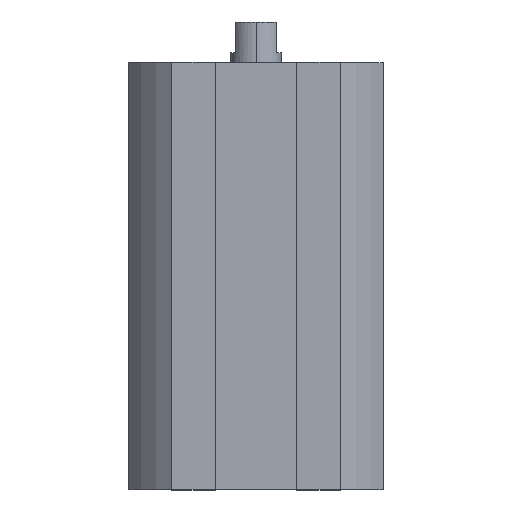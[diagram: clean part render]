
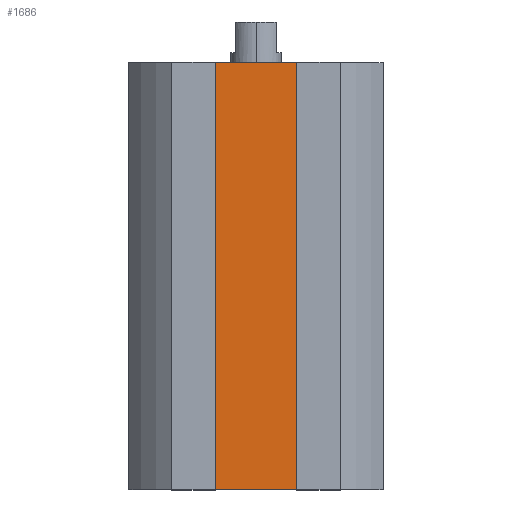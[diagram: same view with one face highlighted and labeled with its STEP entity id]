
A CAD part, top view. The second image highlights one B-rep face of the part: STEP entity #1686.
In plain terms, the highlighted planar face has unit normal (0, 0, 1).
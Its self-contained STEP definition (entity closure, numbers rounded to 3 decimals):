
#136 = CARTESIAN_POINT ( 'NONE',  ( 4., -42., 7.8 ) ) ;
#338 = VECTOR ( 'NONE', #1359, 1000. ) ;
#392 = DIRECTION ( 'NONE',  ( 0., 0., 1. ) ) ;
#420 = VERTEX_POINT ( 'NONE', #1025 ) ;
#497 = CARTESIAN_POINT ( 'NONE',  ( -4., -42., 7.8 ) ) ;
#558 = ORIENTED_EDGE ( 'NONE', *, *, #1460, .F. ) ;
#569 = DIRECTION ( 'NONE',  ( 1., 0., 0. ) ) ;
#588 = PLANE ( 'NONE',  #1325 ) ;
#602 = EDGE_LOOP ( 'NONE', ( #558, #1550, #1367, #1283 ) ) ;
#633 = EDGE_CURVE ( 'NONE', #1858, #776, #871, .T. ) ;
#704 = VECTOR ( 'NONE', #569, 1000. ) ;
#776 = VERTEX_POINT ( 'NONE', #1454 ) ;
#790 = DIRECTION ( 'NONE',  ( 0., 1., 0. ) ) ;
#862 = VERTEX_POINT ( 'NONE', #1850 ) ;
#869 = FACE_OUTER_BOUND ( 'NONE', #602, .T. ) ;
#871 = LINE ( 'NONE', #2186, #1005 ) ;
#882 = EDGE_CURVE ( 'NONE', #776, #420, #2108, .T. ) ;
#1005 = VECTOR ( 'NONE', #1452, 1000. ) ;
#1025 = CARTESIAN_POINT ( 'NONE',  ( 4., 0., 7.8 ) ) ;
#1092 = EDGE_CURVE ( 'NONE', #1858, #862, #2034, .T. ) ;
#1105 = LINE ( 'NONE', #1599, #704 ) ;
#1259 = DIRECTION ( 'NONE',  ( 1., 0., 0. ) ) ;
#1283 = ORIENTED_EDGE ( 'NONE', *, *, #882, .T. ) ;
#1325 = AXIS2_PLACEMENT_3D ( 'NONE', #1802, #392, #1259 ) ;
#1359 = DIRECTION ( 'NONE',  ( 0., 1., 0. ) ) ;
#1367 = ORIENTED_EDGE ( 'NONE', *, *, #633, .T. ) ;
#1452 = DIRECTION ( 'NONE',  ( 1., 0., 0. ) ) ;
#1454 = CARTESIAN_POINT ( 'NONE',  ( 4., -42., 7.8 ) ) ;
#1460 = EDGE_CURVE ( 'NONE', #862, #420, #1105, .T. ) ;
#1550 = ORIENTED_EDGE ( 'NONE', *, *, #1092, .F. ) ;
#1599 = CARTESIAN_POINT ( 'NONE',  ( 0., 0., 7.8 ) ) ;
#1686 = ADVANCED_FACE ( 'NONE', ( #869 ), #588, .T. ) ;
#1785 = VECTOR ( 'NONE', #790, 1000. ) ;
#1802 = CARTESIAN_POINT ( 'NONE',  ( 0., -42., 7.8 ) ) ;
#1850 = CARTESIAN_POINT ( 'NONE',  ( -4., 0., 7.8 ) ) ;
#1858 = VERTEX_POINT ( 'NONE', #497 ) ;
#2034 = LINE ( 'NONE', #2221, #338 ) ;
#2108 = LINE ( 'NONE', #136, #1785 ) ;
#2186 = CARTESIAN_POINT ( 'NONE',  ( 0., -42., 7.8 ) ) ;
#2221 = CARTESIAN_POINT ( 'NONE',  ( -4., -42., 7.8 ) ) ;
